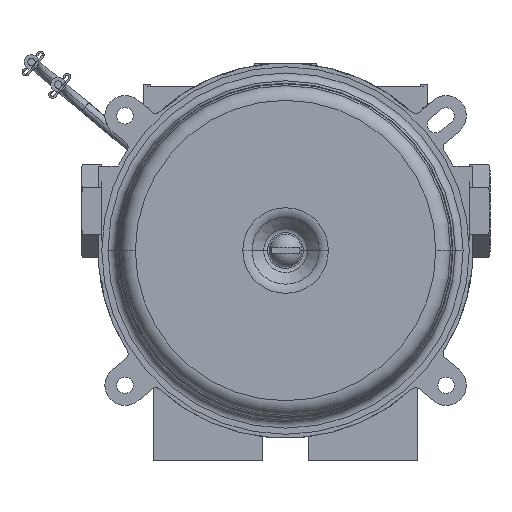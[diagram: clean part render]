
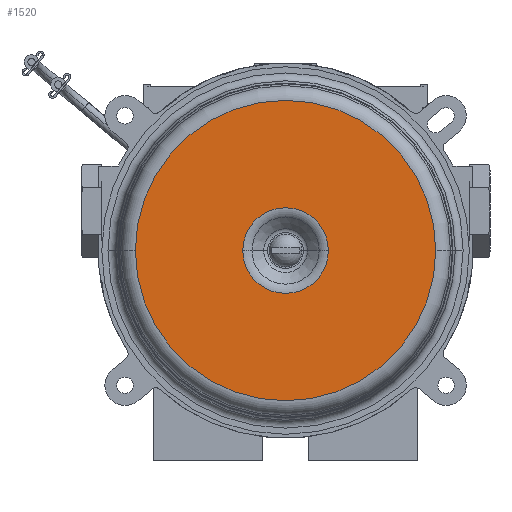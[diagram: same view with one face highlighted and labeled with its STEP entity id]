
A CAD part, front view. The second image highlights one B-rep face of the part: STEP entity #1520.
In plain terms, the highlighted planar face has unit normal (0, -1, 0).
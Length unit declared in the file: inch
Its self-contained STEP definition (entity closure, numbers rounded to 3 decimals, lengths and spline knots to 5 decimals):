
#485=CARTESIAN_POINT('',(0.,-5.487,0.27));
#486=DIRECTION('',(0.,-1.,0.));
#487=DIRECTION('',(-1.,0.,0.));
#488=AXIS2_PLACEMENT_3D('',#485,#486,#487);
#490=CARTESIAN_POINT('',(0.,-5.487,0.27));
#491=DIRECTION('',(0.,-1.,0.));
#492=DIRECTION('',(1.,0.,0.));
#493=AXIS2_PLACEMENT_3D('',#490,#491,#492);
#495=CARTESIAN_POINT('',(0.,-5.487,0.27));
#496=DIRECTION('',(0.,1.,0.));
#497=DIRECTION('',(-1.,0.,0.));
#498=AXIS2_PLACEMENT_3D('',#495,#496,#497);
#500=CARTESIAN_POINT('',(0.,-5.487,0.27));
#501=DIRECTION('',(0.,1.,0.));
#502=DIRECTION('',(1.,0.,0.));
#503=AXIS2_PLACEMENT_3D('',#500,#501,#502);
#709=CARTESIAN_POINT('',(0.46582,-5.487,0.27));
#710=VERTEX_POINT('',#709);
#711=CARTESIAN_POINT('',(-0.46582,-5.487,0.27));
#712=VERTEX_POINT('',#711);
#714=CARTESIAN_POINT('',(1.635,-5.487,0.27));
#716=VERTEX_POINT('',#714);
#717=CARTESIAN_POINT('',(-1.635,-5.487,0.27));
#719=VERTEX_POINT('',#717);
#1505=CARTESIAN_POINT('',(0.,-5.487,0.27));
#1506=DIRECTION('',(0.,1.,0.));
#1507=DIRECTION('',(-1.,0.,0.));
#1508=AXIS2_PLACEMENT_3D('',#1505,#1506,#1507);
#1509=PLANE('',#1508);
#1510=ORIENTED_EDGE('',*,*,#1500,.F.);
#1511=ORIENTED_EDGE('',*,*,#1484,.F.);
#1512=EDGE_LOOP('',(#1510,#1511));
#1513=FACE_OUTER_BOUND('',#1512,.F.);
#1515=ORIENTED_EDGE('',*,*,#1514,.F.);
#1517=ORIENTED_EDGE('',*,*,#1516,.F.);
#1518=EDGE_LOOP('',(#1515,#1517));
#1519=FACE_BOUND('',#1518,.F.);
#1520=ADVANCED_FACE('',(#1513,#1519),#1509,.F.);
#489=CIRCLE('',#488,1.635);
#494=CIRCLE('',#493,1.635);
#499=CIRCLE('',#498,0.46582);
#504=CIRCLE('',#503,0.46582);
#1484=EDGE_CURVE('',#716,#719,#494,.T.);
#1500=EDGE_CURVE('',#719,#716,#489,.T.);
#1514=EDGE_CURVE('',#712,#710,#499,.T.);
#1516=EDGE_CURVE('',#710,#712,#504,.T.);
